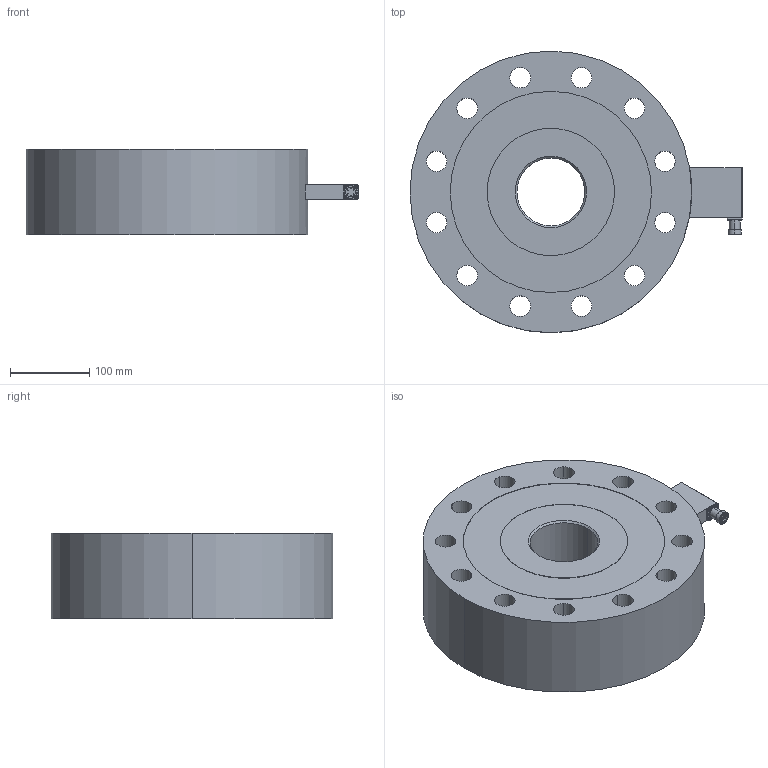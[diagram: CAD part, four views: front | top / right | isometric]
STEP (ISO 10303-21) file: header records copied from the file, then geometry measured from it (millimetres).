
FILE_DESCRIPTION(('STEP AP203'),'1');
FILE_NAME('C:/TPO v2/SharedFS/Outgoing/burster_85041-7002_bb0065p6bt844rj0kc49ozcet.stp','2013-08-27T13:48:02',('TraceParts'),('TraceParts S.A.'),'XStep 1.0',' ',' ');
FILE_SCHEMA(('CONFIG_CONTROL_DESIGN'));
Length unit declared in the file: millimetre
Products named in the file (1): 1
Bounding box: 419.1 x 355.6 x 108 mm (x, y, z)
Volume: 9367581.4 mm3; surface area: 444856.9 mm2
Topology: 1 solids, 1 shells, 176 faces, 437 edges, 276 vertices
Faces by surface type: plane 86, cylinder 56, torus 18, cone 16
Entity records: 5745 total; most frequent: CARTESIAN_POINT 1414, DIRECTION 923, ORIENTED_EDGE 874, EDGE_CURVE 437, AXIS2_PLACEMENT_3D 369, VERTEX_POINT 276, EDGE_LOOP 215, CIRCLE 192
